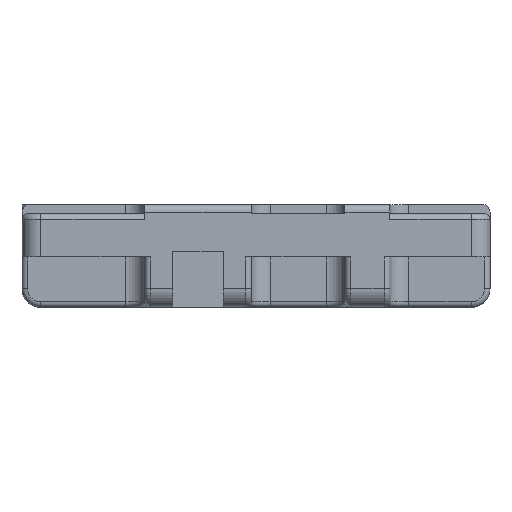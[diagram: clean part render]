
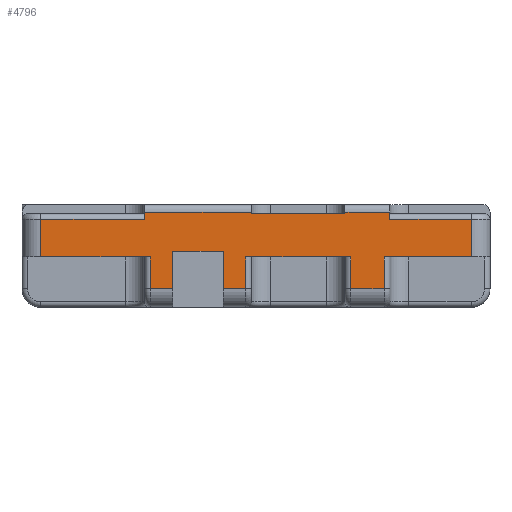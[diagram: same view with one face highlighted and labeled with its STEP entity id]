
A CAD part, left-side view. The second image highlights one B-rep face of the part: STEP entity #4796.
In plain terms, the highlighted planar face has unit normal (-1, 0, 0).
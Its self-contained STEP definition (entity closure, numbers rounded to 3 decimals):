
#2=DIRECTION('',(0.,0.,1.));
#3=VECTOR('',#2,1.7);
#4=CARTESIAN_POINT('',(-11.9,-9.95,1.));
#5=LINE('',#4,#3);
#6=DIRECTION('',(0.,-1.,0.));
#7=VECTOR('',#6,1.8);
#8=CARTESIAN_POINT('',(-11.9,-8.15,1.));
#9=LINE('',#8,#7);
#10=DIRECTION('',(0.,0.,-1.));
#11=VECTOR('',#10,1.7);
#12=CARTESIAN_POINT('',(-11.9,-8.15,2.7));
#13=LINE('',#12,#11);
#14=DIRECTION('',(0.,0.,1.));
#15=VECTOR('',#14,1.7);
#16=CARTESIAN_POINT('',(-11.9,-2.55,1.));
#17=LINE('',#16,#15);
#18=DIRECTION('',(0.,1.,0.));
#19=VECTOR('',#18,1.2);
#20=CARTESIAN_POINT('',(-11.9,-2.55,1.));
#21=LINE('',#20,#19);
#22=DIRECTION('',(0.,0.,1.));
#23=VECTOR('',#22,2.);
#24=CARTESIAN_POINT('',(-11.9,-1.35,1.));
#25=LINE('',#24,#23);
#26=DIRECTION('',(0.,1.,0.));
#27=VECTOR('',#26,2.7);
#28=CARTESIAN_POINT('',(-11.9,-1.35,3.));
#29=LINE('',#28,#27);
#30=DIRECTION('',(0.,0.,1.));
#31=VECTOR('',#30,2.);
#32=CARTESIAN_POINT('',(-11.9,1.35,1.));
#33=LINE('',#32,#31);
#34=DIRECTION('',(0.,1.,0.));
#35=VECTOR('',#34,1.2);
#36=CARTESIAN_POINT('',(-11.9,1.35,1.));
#37=LINE('',#36,#35);
#38=DIRECTION('',(0.,0.,-1.));
#39=VECTOR('',#38,1.7);
#40=CARTESIAN_POINT('',(-11.9,2.55,2.7));
#41=LINE('',#40,#39);
#42=DIRECTION('',(0.,0.,-1.));
#43=VECTOR('',#42,2.);
#44=CARTESIAN_POINT('',(-11.9,8.4,4.7));
#45=LINE('',#44,#43);
#46=DIRECTION('',(0.,-1.,0.));
#47=VECTOR('',#46,5.55);
#48=CARTESIAN_POINT('',(-11.9,8.4,4.7));
#49=LINE('',#48,#47);
#50=DIRECTION('',(0.,1.,0.));
#51=VECTOR('',#50,5.7);
#52=CARTESIAN_POINT('',(-11.9,-2.85,5.1));
#53=LINE('',#52,#51);
#54=DIRECTION('',(0.,0.,-1.));
#55=VECTOR('',#54,0.1);
#56=CARTESIAN_POINT('',(-11.9,-2.85,5.1));
#57=LINE('',#56,#55);
#58=DIRECTION('',(0.,-1.,0.));
#59=VECTOR('',#58,5.);
#60=CARTESIAN_POINT('',(-11.9,-2.85,5.));
#61=LINE('',#60,#59);
#62=DIRECTION('',(0.,0.,-1.));
#63=VECTOR('',#62,0.1);
#64=CARTESIAN_POINT('',(-11.9,-7.85,5.1));
#65=LINE('',#64,#63);
#66=DIRECTION('',(0.,1.,0.));
#67=VECTOR('',#66,2.4);
#68=CARTESIAN_POINT('',(-11.9,-10.25,5.1));
#69=LINE('',#68,#67);
#70=DIRECTION('',(0.,1.,0.));
#71=VECTOR('',#70,4.35);
#72=CARTESIAN_POINT('',(-11.9,-14.6,4.7));
#73=LINE('',#72,#71);
#74=DIRECTION('',(0.,0.,-1.));
#75=VECTOR('',#74,2.);
#76=CARTESIAN_POINT('',(-11.9,-14.6,4.7));
#77=LINE('',#76,#75);
#109=DIRECTION('',(0.,-1.,0.));
#110=VECTOR('',#109,4.65);
#111=CARTESIAN_POINT('',(-11.9,-9.95,2.7));
#112=LINE('',#111,#110);
#1230=DIRECTION('',(0.,-1.,0.));
#1231=VECTOR('',#1230,5.85);
#1232=CARTESIAN_POINT('',(-11.9,8.4,2.7));
#1233=LINE('',#1232,#1231);
#1309=DIRECTION('',(0.,0.,-1.));
#1310=VECTOR('',#1309,0.4);
#1311=CARTESIAN_POINT('',(-11.9,2.85,5.1));
#1312=LINE('',#1311,#1310);
#2687=DIRECTION('',(0.,-1.,0.));
#2688=VECTOR('',#2687,5.6);
#2689=CARTESIAN_POINT('',(-11.9,-2.55,2.7));
#2690=LINE('',#2689,#2688);
#2879=DIRECTION('',(0.,0.,1.));
#2880=VECTOR('',#2879,0.4);
#2881=CARTESIAN_POINT('',(-11.9,-10.25,4.7));
#2882=LINE('',#2881,#2880);
#3807=CARTESIAN_POINT('',(-11.9,-1.35,3.));
#3809=VERTEX_POINT('',#3807);
#3812=CARTESIAN_POINT('',(-11.9,1.35,3.));
#3814=VERTEX_POINT('',#3812);
#3951=CARTESIAN_POINT('',(-11.9,8.4,2.7));
#3953=VERTEX_POINT('',#3951);
#3968=CARTESIAN_POINT('',(-11.9,-14.6,2.7));
#3970=VERTEX_POINT('',#3968);
#4010=CARTESIAN_POINT('',(-11.9,8.4,4.7));
#4011=VERTEX_POINT('',#4010);
#4012=CARTESIAN_POINT('',(-11.9,2.85,4.7));
#4013=VERTEX_POINT('',#4012);
#4036=CARTESIAN_POINT('',(-11.9,-14.6,4.7));
#4037=CARTESIAN_POINT('',(-11.9,-10.25,4.7));
#4038=VERTEX_POINT('',#4036);
#4039=VERTEX_POINT('',#4037);
#4096=CARTESIAN_POINT('',(-11.9,-2.85,5.));
#4097=CARTESIAN_POINT('',(-11.9,-7.85,5.));
#4098=VERTEX_POINT('',#4096);
#4099=VERTEX_POINT('',#4097);
#4100=CARTESIAN_POINT('',(-11.9,-2.85,5.1));
#4101=VERTEX_POINT('',#4100);
#4102=CARTESIAN_POINT('',(-11.9,-7.85,5.1));
#4103=VERTEX_POINT('',#4102);
#4116=CARTESIAN_POINT('',(-11.9,-10.25,5.1));
#4117=VERTEX_POINT('',#4116);
#4118=CARTESIAN_POINT('',(-11.9,2.85,5.1));
#4119=VERTEX_POINT('',#4118);
#4240=CARTESIAN_POINT('',(-11.9,1.35,1.));
#4242=VERTEX_POINT('',#4240);
#4245=CARTESIAN_POINT('',(-11.9,-1.35,1.));
#4247=VERTEX_POINT('',#4245);
#4462=CARTESIAN_POINT('',(-11.9,-9.95,1.));
#4463=CARTESIAN_POINT('',(-11.9,-9.95,2.7));
#4464=VERTEX_POINT('',#4462);
#4465=VERTEX_POINT('',#4463);
#4494=CARTESIAN_POINT('',(-11.9,-2.55,1.));
#4495=CARTESIAN_POINT('',(-11.9,-2.55,2.7));
#4496=VERTEX_POINT('',#4494);
#4497=VERTEX_POINT('',#4495);
#4522=CARTESIAN_POINT('',(-11.9,-8.15,1.));
#4523=VERTEX_POINT('',#4522);
#4526=CARTESIAN_POINT('',(-11.9,-8.15,2.7));
#4527=VERTEX_POINT('',#4526);
#4596=CARTESIAN_POINT('',(-11.9,2.55,1.));
#4597=VERTEX_POINT('',#4596);
#4600=CARTESIAN_POINT('',(-11.9,2.55,2.7));
#4601=VERTEX_POINT('',#4600);
#4741=CARTESIAN_POINT('',(-11.9,9.4,0.));
#4742=DIRECTION('',(-1.,0.,0.));
#4743=DIRECTION('',(0.,-1.,0.));
#4744=AXIS2_PLACEMENT_3D('',#4741,#4742,#4743);
#4745=PLANE('',#4744);
#4747=ORIENTED_EDGE('',*,*,#4746,.F.);
#4749=ORIENTED_EDGE('',*,*,#4748,.F.);
#4751=ORIENTED_EDGE('',*,*,#4750,.F.);
#4753=ORIENTED_EDGE('',*,*,#4752,.F.);
#4755=ORIENTED_EDGE('',*,*,#4754,.F.);
#4757=ORIENTED_EDGE('',*,*,#4756,.T.);
#4759=ORIENTED_EDGE('',*,*,#4758,.T.);
#4761=ORIENTED_EDGE('',*,*,#4760,.T.);
#4763=ORIENTED_EDGE('',*,*,#4762,.F.);
#4765=ORIENTED_EDGE('',*,*,#4764,.T.);
#4767=ORIENTED_EDGE('',*,*,#4766,.F.);
#4769=ORIENTED_EDGE('',*,*,#4768,.F.);
#4771=ORIENTED_EDGE('',*,*,#4770,.F.);
#4773=ORIENTED_EDGE('',*,*,#4772,.T.);
#4775=ORIENTED_EDGE('',*,*,#4774,.F.);
#4777=ORIENTED_EDGE('',*,*,#4776,.F.);
#4779=ORIENTED_EDGE('',*,*,#4778,.T.);
#4781=ORIENTED_EDGE('',*,*,#4780,.T.);
#4783=ORIENTED_EDGE('',*,*,#4782,.F.);
#4785=ORIENTED_EDGE('',*,*,#4784,.F.);
#4787=ORIENTED_EDGE('',*,*,#4786,.F.);
#4789=ORIENTED_EDGE('',*,*,#4788,.F.);
#4791=ORIENTED_EDGE('',*,*,#4790,.T.);
#4793=ORIENTED_EDGE('',*,*,#4792,.F.);
#4794=EDGE_LOOP('',(#4747,#4749,#4751,#4753,#4755,#4757,#4759,#4761,#4763,#4765,
#4767,#4769,#4771,#4773,#4775,#4777,#4779,#4781,#4783,#4785,#4787,#4789,#4791,
#4793));
#4795=FACE_OUTER_BOUND('',#4794,.F.);
#4796=ADVANCED_FACE('',(#4795),#4745,.T.);
#4746=EDGE_CURVE('',#4464,#4465,#5,.T.);
#4748=EDGE_CURVE('',#4523,#4464,#9,.T.);
#4750=EDGE_CURVE('',#4527,#4523,#13,.T.);
#4752=EDGE_CURVE('',#4497,#4527,#2690,.T.);
#4754=EDGE_CURVE('',#4496,#4497,#17,.T.);
#4756=EDGE_CURVE('',#4496,#4247,#21,.T.);
#4758=EDGE_CURVE('',#4247,#3809,#25,.T.);
#4760=EDGE_CURVE('',#3809,#3814,#29,.T.);
#4762=EDGE_CURVE('',#4242,#3814,#33,.T.);
#4764=EDGE_CURVE('',#4242,#4597,#37,.T.);
#4766=EDGE_CURVE('',#4601,#4597,#41,.T.);
#4768=EDGE_CURVE('',#3953,#4601,#1233,.T.);
#4770=EDGE_CURVE('',#4011,#3953,#45,.T.);
#4772=EDGE_CURVE('',#4011,#4013,#49,.T.);
#4774=EDGE_CURVE('',#4119,#4013,#1312,.T.);
#4776=EDGE_CURVE('',#4101,#4119,#53,.T.);
#4778=EDGE_CURVE('',#4101,#4098,#57,.T.);
#4780=EDGE_CURVE('',#4098,#4099,#61,.T.);
#4782=EDGE_CURVE('',#4103,#4099,#65,.T.);
#4784=EDGE_CURVE('',#4117,#4103,#69,.T.);
#4786=EDGE_CURVE('',#4039,#4117,#2882,.T.);
#4788=EDGE_CURVE('',#4038,#4039,#73,.T.);
#4790=EDGE_CURVE('',#4038,#3970,#77,.T.);
#4792=EDGE_CURVE('',#4465,#3970,#112,.T.);
